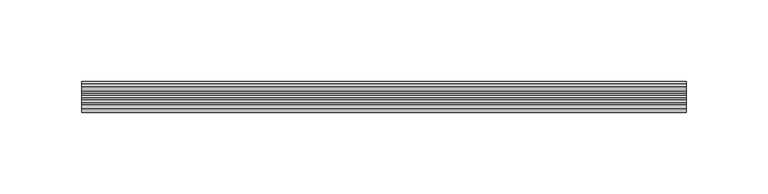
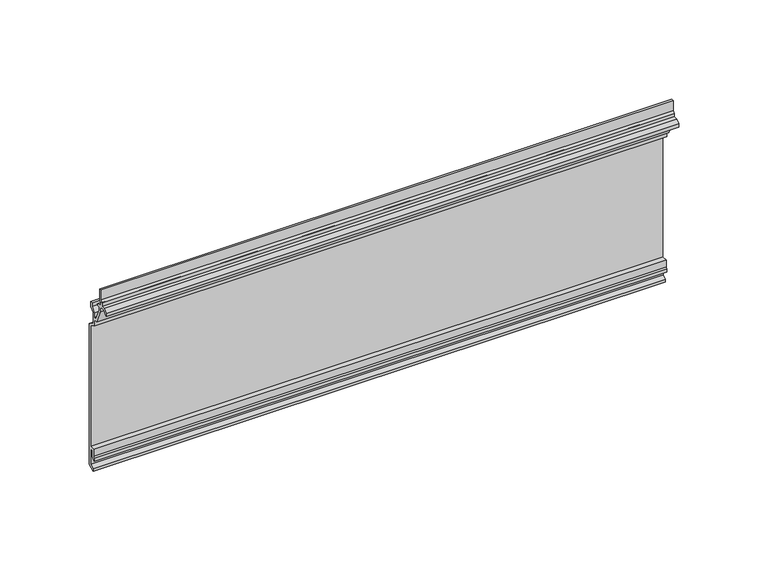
"""IFC4 building model written with IfcOpenShell, lengths in millimetres: plate geometry, FastPlank_P44V-V-Notch-4″-Plank-Horizontal : P44V-V-Notch-4″-Plank-Horizontal."""

from ifc_helpers import new_model, si_unit, frame, origin, place, context, project, spatial, polyline, outline, extrude, source, transform, mapped, element, save


def plate_9c8115fe(model_context):
    return source(origin(), model_context, "Body", "SweptSolid", [
        extrude(outline(polyline([(18.8745946, 2.3957023), (14.7246029, 0.0), (14.7246029, 1.7319938), (17.3745976, 3.2617795), (17.3745976, 13.9827581), (15.5246013, 13.9827581), (15.5246013, 9.9691576), (13.3162936, 7.7608499), (13.3162936, 9.8794005), (14.0246043, 10.5877112), (14.0246043, 15.4863039), (17.5745972, 15.4863039), (17.5745972, 97.9535307), (13.2246059, 100.4649994), (13.2246059, 104.5739676), (10.7243127, 104.5739676), (6.5338639, 113.9609184), (6.5338639, 116.7763922), (5.0811989, 117.6150887), (2.6937325, 117.6150887), (0.0, 114.9213563), (0.0, 117.0394467), (2.1334241, 118.9150861), (4.7821608, 118.9150861), (4.7821608, 121.2437723), (6.0321583, 122.3427309), (6.0321583, 129.1909904), (7.5321553, 129.1909904), (7.5321553, 120.8578751), (6.2821578, 120.8578751), (6.2821578, 118.3909783), (8.8232117, 118.3909783), (10.3184198, 117.2227937), (9.7191932, 116.4558186), (8.0338609, 116.4558186), (8.0338609, 114.2522203), (11.708109, 106.0486482), (13.2246059, 106.0486482), (13.2246059, 109.2361164), (15.8746006, 111.8861111), (15.8746006, 114.5726601), (17.3745976, 114.5726601), (17.3745976, 111.264792), (14.7246029, 108.6147973), (14.7246029, 101.1000834), (18.8745946, 98.7040846), (18.8745946, 2.3957023)])), frame((-184.7615925, 0.0, 0.0), z_axis=(1.0, 0.0, 0.0), x_axis=(0.0, 1.0, 0.0)), (0.0, 0.0, 1.0), 369.5231851),
    ])


if __name__ == "__main__":
    model = new_model("IFC4")
    model_context = context("Model", 3, world=origin())
    ifc_project = project(units=[si_unit("LENGTHUNIT", "METRE", prefix="MILLI")], contexts=[model_context])
    site = spatial("IfcSite", under=ifc_project)
    building = spatial("IfcBuilding", under=site)
    placement = place(None, origin())
    plate_shape = plate_9c8115fe(model_context)
    element("IfcPlate", 1, ObjectType="FastPlank_P44V-V-Notch-4″-Plank-Horizontal : P44V-V-Notch-4″-Plank-Horizontal", at=placement, inside=building, context=model_context, shape_type="MappedRepresentation", body=[
        mapped(plate_shape, transform((0.0, 0.0, 0.0), x_axis=(1.0, 0.0, 0.0), y_axis=(0.0, 1.0, 0.0), z_axis=(0.0, 0.0, 1.0))),
    ])
    save(model, "model.ifc")
